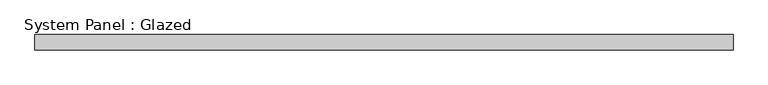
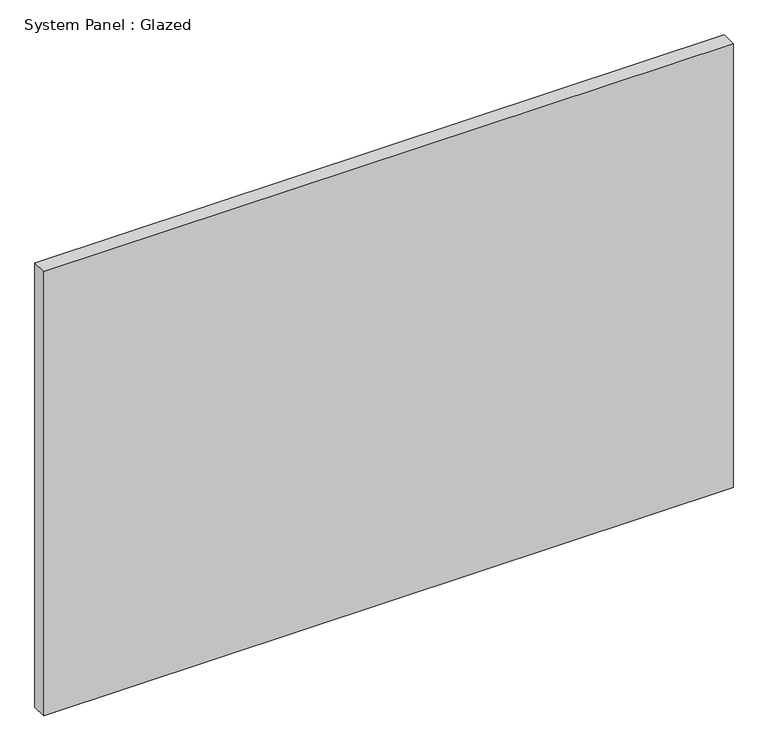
"""IFC4 building model written with IfcOpenShell, lengths in millimetres: plate geometry, System Panel : Glazed."""

from ifc_helpers import new_model, si_unit, origin, origin_with_axes, place, context, project, spatial, polyline, outline, extrude, source, transform, mapped, element, save


def system_panel_glazed_cb820e14(model_context):
    return source(origin(), model_context, "Body", "SweptSolid", [
        extrude(outline(polyline([(577.8500002, 19.05), (-577.8500002, 19.05), (-577.8500002, 44.45), (577.8500002, 44.45), (577.8500002, 19.05)])), origin_with_axes(), (0.0, 0.0, 1.0), 787.4),
    ])


if __name__ == "__main__":
    model = new_model("IFC4")
    model_context = context("Model", 3, world=origin())
    ifc_project = project(units=[si_unit("LENGTHUNIT", "METRE", prefix="MILLI")], contexts=[model_context])
    site = spatial("IfcSite", under=ifc_project)
    building = spatial("IfcBuilding", under=site)
    placement = place(None, origin())
    system_panel_glazed_shape = system_panel_glazed_cb820e14(model_context)
    element("IfcPlate", 1, ObjectType="System Panel : Glazed", at=placement, inside=building, context=model_context, shape_type="MappedRepresentation", body=[
        mapped(system_panel_glazed_shape, transform((0.0, 0.0, 0.0), x_axis=(1.0, 0.0, 0.0), y_axis=(0.0, 1.0, 0.0), z_axis=(0.0, 0.0, 1.0))),
    ])
    save(model, "model.ifc")
